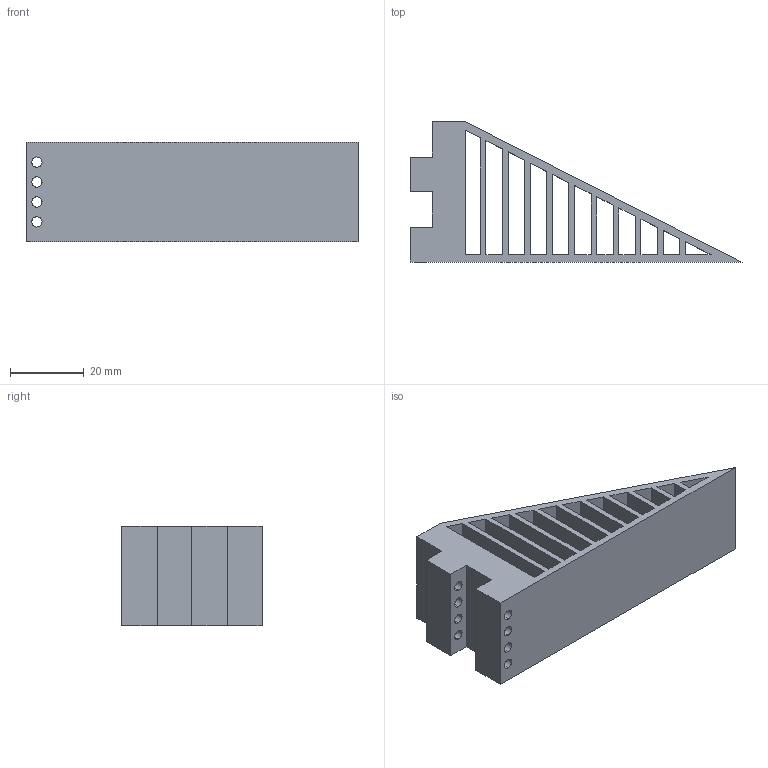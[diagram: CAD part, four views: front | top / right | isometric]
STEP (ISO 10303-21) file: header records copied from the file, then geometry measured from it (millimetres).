
FILE_DESCRIPTION (( 'STEP AP214' ), '1' );
FILE_NAME ('Gripper_flex_2.STEP', '2020-08-29T13:01:07', ( '' ), ( '' ), 'SwSTEP 2.0', 'SolidWorks 2020', '' );
FILE_SCHEMA (( 'AUTOMOTIVE_DESIGN' ));
Length unit declared in the file: millimetre
Products named in the file (1): Gripper_flex_2
Bounding box: 89.95 x 38 x 27 mm (x, y, z)
Volume: 27013.5 mm3; surface area: 22428.2 mm2
Topology: 1 solids, 1 shells, 71 faces, 207 edges, 138 vertices
Faces by surface type: plane 55, cylinder 16
Entity records: 2971 total; most frequent: CARTESIAN_POINT 417, ORIENTED_EDGE 414, DIRECTION 383, EDGE_CURVE 207, VECTOR 175, LINE 175, VERTEX_POINT 138, EDGE_LOOP 109
